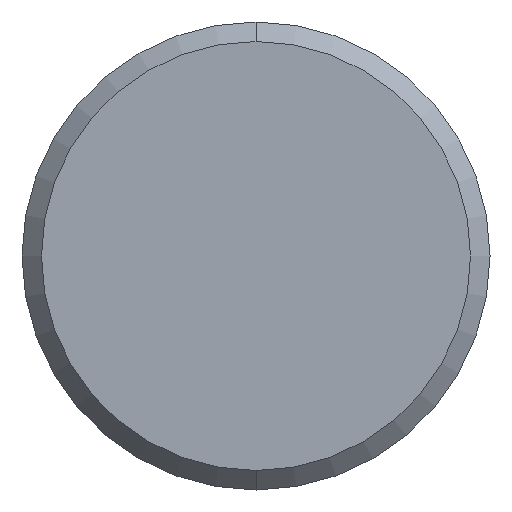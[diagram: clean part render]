
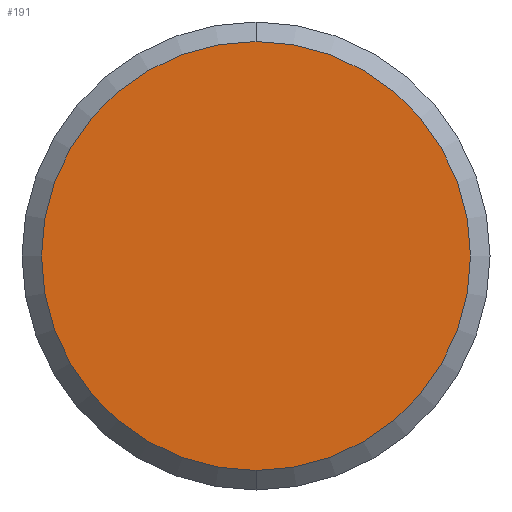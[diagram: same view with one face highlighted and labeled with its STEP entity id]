
A CAD part, front view. The second image highlights one B-rep face of the part: STEP entity #191.
In plain terms, the highlighted planar face has unit normal (0, -1, 0).
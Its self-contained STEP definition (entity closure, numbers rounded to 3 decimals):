
#23 = DIRECTION ( 'NONE',  ( 0., 0., 1. ) ) ;
#26 = FACE_OUTER_BOUND ( 'NONE', #151, .T. ) ;
#45 = DIRECTION ( 'NONE',  ( 0., -1., 0. ) ) ;
#91 = CARTESIAN_POINT ( 'NONE',  ( 0., 0., 0. ) ) ;
#94 = DIRECTION ( 'NONE',  ( 0., -1., 0. ) ) ;
#117 = DIRECTION ( 'NONE',  ( 0., 0., 1. ) ) ;
#120 = EDGE_CURVE ( 'NONE', #227, #289, #376, .T. ) ;
#142 = AXIS2_PLACEMENT_3D ( 'NONE', #91, #94, #23 ) ;
#151 = EDGE_LOOP ( 'NONE', ( #233, #369 ) ) ;
#154 = DIRECTION ( 'NONE',  ( 0., 1., 0. ) ) ;
#177 = EDGE_CURVE ( 'NONE', #289, #227, #334, .T. ) ;
#189 = AXIS2_PLACEMENT_3D ( 'NONE', #410, #45, #348 ) ;
#191 = ADVANCED_FACE ( 'NONE', ( #26 ), #331, .F. ) ;
#227 = VERTEX_POINT ( 'NONE', #360 ) ;
#233 = ORIENTED_EDGE ( 'NONE', *, *, #177, .T. ) ;
#289 = VERTEX_POINT ( 'NONE', #303 ) ;
#303 = CARTESIAN_POINT ( 'NONE',  ( 0., 0., 5.5 ) ) ;
#331 = PLANE ( 'NONE',  #392 ) ;
#334 = CIRCLE ( 'NONE', #142, 5.5 ) ;
#348 = DIRECTION ( 'NONE',  ( 0., 0., 1. ) ) ;
#355 = CARTESIAN_POINT ( 'NONE',  ( 0., 0., 0. ) ) ;
#360 = CARTESIAN_POINT ( 'NONE',  ( 0., 0., -5.5 ) ) ;
#369 = ORIENTED_EDGE ( 'NONE', *, *, #120, .T. ) ;
#376 = CIRCLE ( 'NONE', #189, 5.5 ) ;
#392 = AXIS2_PLACEMENT_3D ( 'NONE', #355, #154, #117 ) ;
#410 = CARTESIAN_POINT ( 'NONE',  ( 0., 0., 0. ) ) ;
